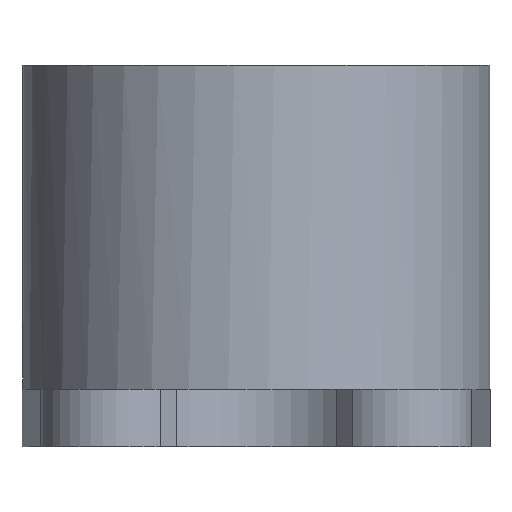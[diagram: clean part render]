
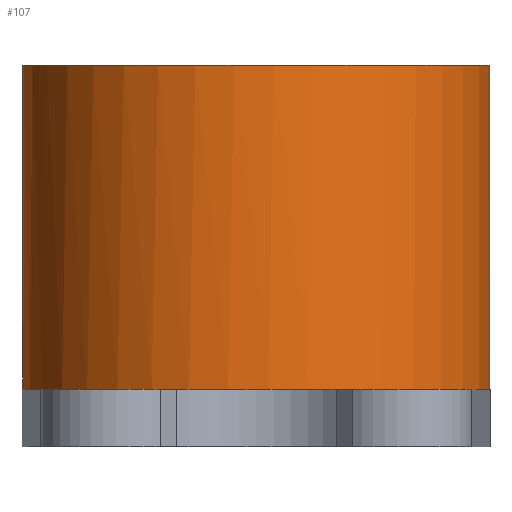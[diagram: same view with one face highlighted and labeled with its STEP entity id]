
A CAD part, left-side view. The second image highlights one B-rep face of the part: STEP entity #107.
In plain terms, the highlighted cylindrical face has radius 32.5 mm (diameter 65 mm), a full revolution.
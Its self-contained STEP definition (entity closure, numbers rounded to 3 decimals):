
#107 = ADVANCED_FACE( '', ( #226, #227 ), #228, .T. );
#226 = FACE_OUTER_BOUND( '', #338, .T. );
#227 = FACE_OUTER_BOUND( '', #339, .T. );
#228 = CYLINDRICAL_SURFACE( '', #340, 32.5 );
#338 = EDGE_LOOP( '', ( #572 ) );
#339 = EDGE_LOOP( '', ( #573, #574, #575, #576, #577 ) );
#340 = AXIS2_PLACEMENT_3D( '', #578, #579, #580 );
#572 = ORIENTED_EDGE( '', *, *, #602, .T. );
#573 = ORIENTED_EDGE( '', *, *, #666, .T. );
#574 = ORIENTED_EDGE( '', *, *, #657, .T. );
#575 = ORIENTED_EDGE( '', *, *, #679, .T. );
#576 = ORIENTED_EDGE( '', *, *, #606, .T. );
#577 = ORIENTED_EDGE( '', *, *, #593, .T. );
#578 = CARTESIAN_POINT( '', ( 0., 0., 53. ) );
#579 = DIRECTION( '', ( 0., 0., 1. ) );
#580 = DIRECTION( '', ( -1., 0., 0. ) );
#593 = EDGE_CURVE( '', #690, #688, #691, .F. );
#602 = EDGE_CURVE( '', #706, #706, #707, .T. );
#606 = EDGE_CURVE( '', #710, #690, #713, .F. );
#657 = EDGE_CURVE( '', #746, #744, #790, .F. );
#666 = EDGE_CURVE( '', #688, #746, #802, .F. );
#679 = EDGE_CURVE( '', #744, #710, #817, .F. );
#688 = VERTEX_POINT( '', #826 );
#690 = VERTEX_POINT( '', #829 );
#691 = CIRCLE( '', #830, 32.5 );
#706 = VERTEX_POINT( '', #848 );
#707 = CIRCLE( '', #849, 32.5 );
#710 = VERTEX_POINT( '', #852 );
#713 = CIRCLE( '', #857, 32.5 );
#744 = VERTEX_POINT( '', #895 );
#746 = VERTEX_POINT( '', #898 );
#790 = CIRCLE( '', #956, 32.5 );
#802 = CIRCLE( '', #969, 32.5 );
#817 = CIRCLE( '', #989, 32.5 );
#826 = CARTESIAN_POINT( '', ( -4.62, -32.17, 8. ) );
#829 = CARTESIAN_POINT( '', ( -2.397, 32.412, 8. ) );
#830 = AXIS2_PLACEMENT_3D( '', #999, #1000, #1001 );
#848 = CARTESIAN_POINT( '', ( 32.5, 0., 53. ) );
#849 = AXIS2_PLACEMENT_3D( '', #1017, #1018, #1019 );
#852 = CARTESIAN_POINT( '', ( 2.397, 32.412, 8. ) );
#857 = AXIS2_PLACEMENT_3D( '', #1022, #1023, #1024 );
#895 = CARTESIAN_POINT( '', ( 4.62, -32.17, 8. ) );
#898 = CARTESIAN_POINT( '', ( 0., -32.5, 8. ) );
#956 = AXIS2_PLACEMENT_3D( '', #1086, #1087, #1088 );
#969 = AXIS2_PLACEMENT_3D( '', #1099, #1100, #1101 );
#989 = AXIS2_PLACEMENT_3D( '', #1113, #1114, #1115 );
#999 = CARTESIAN_POINT( '', ( 0., 0., 8. ) );
#1000 = DIRECTION( '', ( 0., 0., -1. ) );
#1001 = DIRECTION( '', ( -1., 0., 0. ) );
#1017 = CARTESIAN_POINT( '', ( 0., 0., 53. ) );
#1018 = DIRECTION( '', ( 0., 0., -1. ) );
#1019 = DIRECTION( '', ( 1., 0., 0. ) );
#1022 = CARTESIAN_POINT( '', ( 0., 0., 8. ) );
#1023 = DIRECTION( '', ( 0., 0., -1. ) );
#1024 = DIRECTION( '', ( -1., 0., 0. ) );
#1086 = CARTESIAN_POINT( '', ( 0., 0., 8. ) );
#1087 = DIRECTION( '', ( 0., 0., -1. ) );
#1088 = DIRECTION( '', ( -1., 0., 0. ) );
#1099 = CARTESIAN_POINT( '', ( 0., 0., 8. ) );
#1100 = DIRECTION( '', ( 0., 0., -1. ) );
#1101 = DIRECTION( '', ( -1., 0., 0. ) );
#1113 = CARTESIAN_POINT( '', ( 0., 0., 8. ) );
#1114 = DIRECTION( '', ( 0., 0., -1. ) );
#1115 = DIRECTION( '', ( -1., 0., 0. ) );
